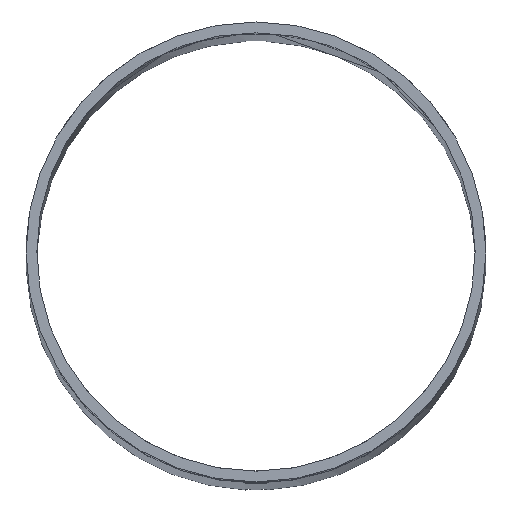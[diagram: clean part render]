
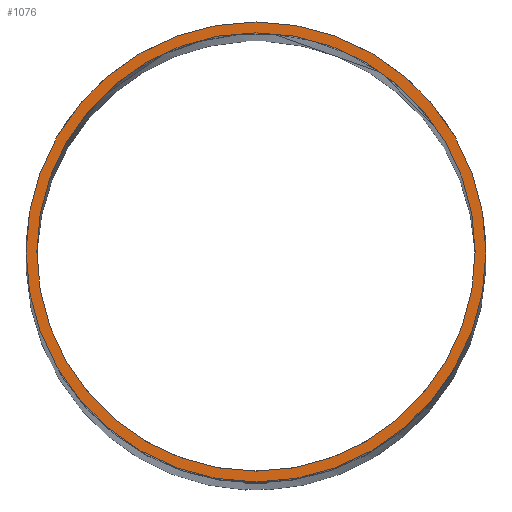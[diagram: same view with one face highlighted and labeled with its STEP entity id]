
A CAD part, top view. The second image highlights one B-rep face of the part: STEP entity #1076.
In plain terms, the highlighted planar face has unit normal (0, 0, 1).
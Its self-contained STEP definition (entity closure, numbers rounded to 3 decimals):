
#29=FACE_BOUND('',#148,.T.);
#82=FACE_OUTER_BOUND('',#147,.T.);
#147=EDGE_LOOP('',(#975));
#148=EDGE_LOOP('',(#976));
#371=CIRCLE('',#1136,42.45);
#388=CIRCLE('',#1154,44.55);
#455=VERTEX_POINT('',#1658);
#482=VERTEX_POINT('',#1717);
#579=EDGE_CURVE('',#455,#455,#371,.T.);
#610=EDGE_CURVE('',#482,#482,#388,.T.);
#975=ORIENTED_EDGE('',*,*,#610,.T.);
#976=ORIENTED_EDGE('',*,*,#579,.T.);
#1025=PLANE('',#1197);
#1076=ADVANCED_FACE('',(#82,#29),#1025,.T.);
#1136=AXIS2_PLACEMENT_3D('',#1659,#1338,#1339);
#1154=AXIS2_PLACEMENT_3D('',#1718,#1388,#1389);
#1197=AXIS2_PLACEMENT_3D('',#1825,#1512,#1513);
#1338=DIRECTION('center_axis',(0.,0.,-1.));
#1339=DIRECTION('ref_axis',(-1.,0.,0.));
#1388=DIRECTION('center_axis',(0.,0.,1.));
#1389=DIRECTION('ref_axis',(-1.,0.,0.));
#1512=DIRECTION('center_axis',(0.,0.,1.));
#1513=DIRECTION('ref_axis',(1.,0.,0.));
#1658=CARTESIAN_POINT('',(42.45,0.,922.));
#1659=CARTESIAN_POINT('Origin',(0.,0.,922.));
#1717=CARTESIAN_POINT('',(44.55,0.,922.));
#1718=CARTESIAN_POINT('Origin',(0.,0.,922.));
#1825=CARTESIAN_POINT('Origin',(0.,0.,922.));
